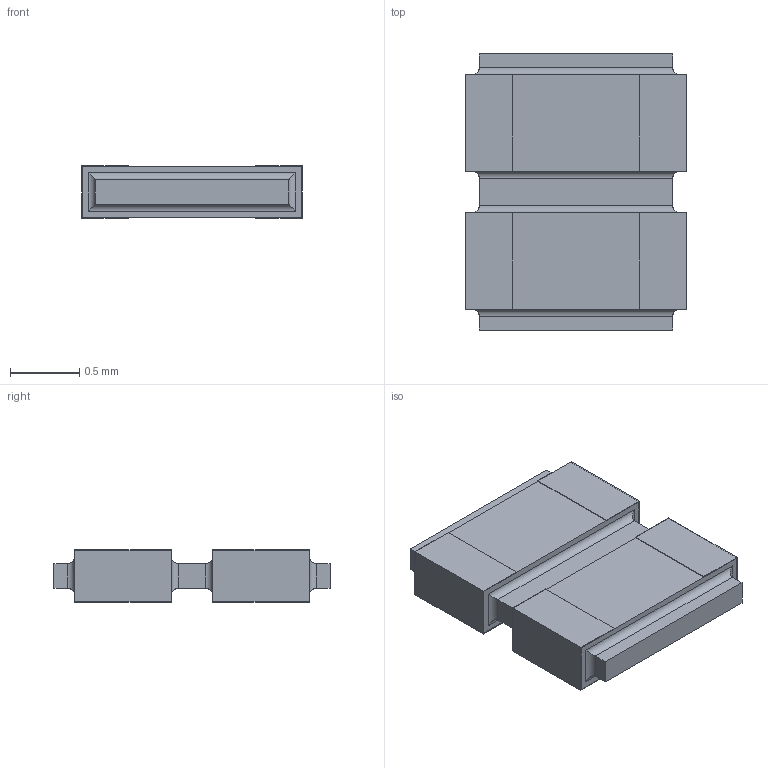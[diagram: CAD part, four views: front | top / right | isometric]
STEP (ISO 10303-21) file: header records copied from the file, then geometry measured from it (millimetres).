
FILE_DESCRIPTION(/* description */ (''),/* implementation_level */ '2;1');
FILE_NAME(/* name */ 'S:\DOCUMENT\AUTOCAD\3D_Modèles\10_3D-pour-VISHAY-COM\PRA\PRAHR100I2_B.stp',/* time_stamp */ '2018-02-02T10:41:08+01:00',/* author */ ('dparmentier'),/* organization */ ('unknown'),/* preprocessor_version */ 'ST-DEVELOPER v17',/* originating_system */ 'Autodesk Inventor 2018',/* authorisation */ '');
FILE_SCHEMA (('AUTOMOTIVE_DESIGN { 1 0 10303 214 3 1 1 }'));
Length unit declared in the file: millimetre
Products named in the file (1): PRAHR100I2_B
Bounding box: 1.6 x 2 x 0.38 mm (x, y, z)
Volume: 1 mm3; surface area: 14.9 mm2
Topology: 5 solids, 5 shells, 82 faces, 188 edges, 120 vertices
Faces by surface type: plane 66, cylinder 16
Entity records: 2309 total; most frequent: CARTESIAN_POINT 391, ORIENTED_EDGE 376, DIRECTION 370, EDGE_CURVE 188, LINE 172, VECTOR 172, VERTEX_POINT 120, AXIS2_PLACEMENT_3D 99
